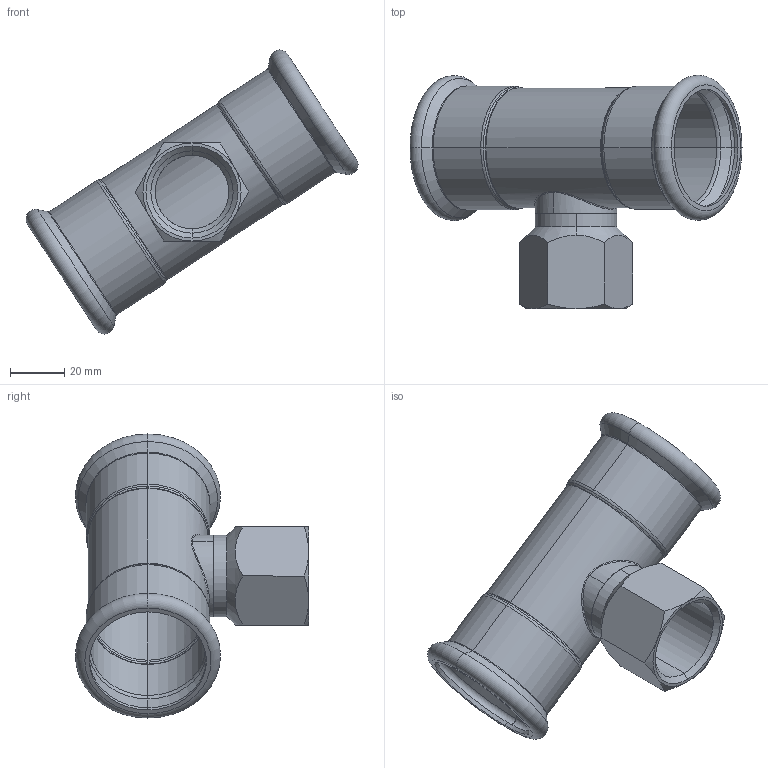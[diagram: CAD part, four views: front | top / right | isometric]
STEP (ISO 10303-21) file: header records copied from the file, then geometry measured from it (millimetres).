
FILE_DESCRIPTION (( 'STEP AP203' ), '1' );
FILE_NAME ('GDA5264.STEP', '2019-01-21T12:07:00', ( '' ), ( '' ), 'SwSTEP 2.0', 'SolidWorks 2015', '' );
FILE_SCHEMA (( 'CONFIG_CONTROL_DESIGN' ));
Length unit declared in the file: millimetre
Products named in the file (3): T(R)-¢ñ-42¡Á28''; GDA5264; ITC-I-03-28℅1
Assembly tree (2 placements, depth 2):
  GDA5264
    ITC-I-03-28℅1
    T(R)-¢ñ-42¡Á28''
Bounding box: 121.88 x 85.64 x 104.28 mm (x, y, z)
Volume: 37622.5 mm3; surface area: 42003.9 mm2
Topology: 2 solids, 2 shells, 103 faces, 218 edges, 122 vertices
Faces by surface type: torus 32, cone 28, cylinder 26, plane 13, bspline 4
Entity records: 4249 total; most frequent: CARTESIAN_POINT 1716, DIRECTION 526, ORIENTED_EDGE 436, AXIS2_PLACEMENT_3D 236, EDGE_CURVE 218, CIRCLE 132, VERTEX_POINT 122, EDGE_LOOP 112
